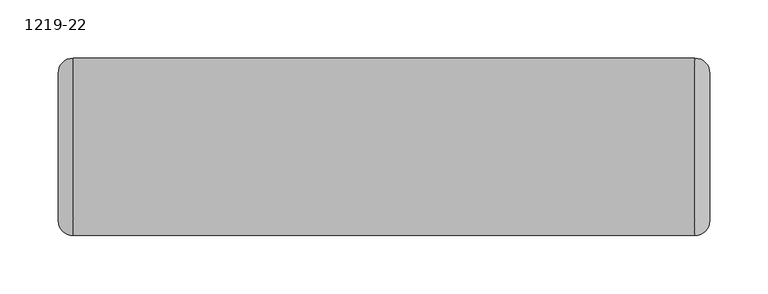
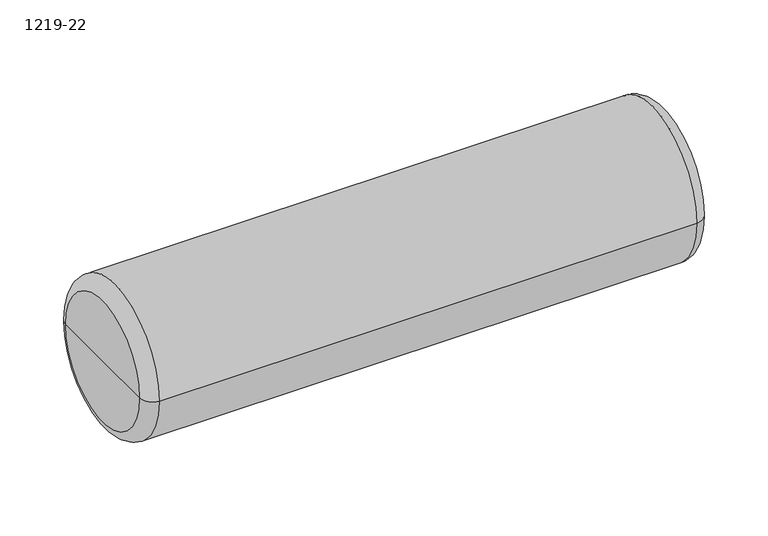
"""IFC4 building model written with IfcOpenShell, lengths in millimetres: furniture geometry, Laguna-Bolster-Pillow-ERG : 1219-22."""

import ifcopenshell
import ifcopenshell.guid

model = None  # the IFC model being written
_history = None  # IfcOwnerHistory: only IFC2X3 demands one
_inside = {}  # id of a spatial element -> (the spatial element, [elements in it])
_under = {}  # id of a project, library or spatial element -> (it, [spatial elements below it])
_declared = {}  # id of a project -> (the project, [libraries it declares])
_typed = {}  # id of a type object -> (the type object, [elements of that type])
_made_of = {}  # id of a material, layer set ... -> (it, [elements and type objects made of it])


def new_model(schema):
    """Start an empty IFC model of exactly this schema.

    Asked for "IFC4X3", IfcOpenShell would pick the latest addendum, in which some entities
    have other attributes; the version numbers below select the first issue.
    IFC2X3 requires an IfcOwnerHistory on every rooted entity: one is made here for all.
    """
    global model, _history
    if schema == "IFC4X3":
        model = ifcopenshell.file(schema_version=(4, 3, 0, 0))
    else:
        model = ifcopenshell.file(schema=schema)
    _inside.clear()
    _under.clear()
    _declared.clear()
    _typed.clear()
    _made_of.clear()
    _history = None
    if model.schema == "IFC2X3":
        org = make("IfcOrganization", Name="unknown")
        user = make(
            "IfcPersonAndOrganization",
            ThePerson=make("IfcPerson", FamilyName="unknown"),
            TheOrganization=org,
        )
        app = make(
            "IfcApplication",
            ApplicationDeveloper=org,
            Version="unknown",
            ApplicationFullName="unknown",
            ApplicationIdentifier="unknown",
        )
        _history = make(
            "IfcOwnerHistory",
            OwningUser=user,
            OwningApplication=app,
            ChangeAction="ADDED",
            CreationDate=0,
        )
    return model


def make(cls, **values):
    """One entity of the class cls with the attributes given. An attribute that is None is left unset."""
    return model.create_entity(
        cls, **{name: value for name, value in values.items() if value is not None}
    )


def rooted(cls, **values):
    """An entity with a GlobalId (a new one), such as an element, a storey or a relation."""
    return make(cls, GlobalId=ifcopenshell.guid.new(), OwnerHistory=_history, **values)


def si_unit(unit_type, name, prefix=None):
    """IfcSIUnit, for example si_unit("LENGTHUNIT", "METRE", prefix="MILLI")."""
    return make("IfcSIUnit", UnitType=unit_type, Prefix=prefix, Name=name)


def assignment(units):
    """IfcUnitAssignment: the units of a project."""
    return None if units is None else make("IfcUnitAssignment", Units=units)


def point(xyz):
    """IfcCartesianPoint."""
    return None if xyz is None else make("IfcCartesianPoint", Coordinates=xyz)


def direction(xyz):
    """IfcDirection."""
    return None if xyz is None else make("IfcDirection", DirectionRatios=xyz)


def frame(location, z_axis=None, x_axis=None):
    """IfcAxis2Placement3D, a coordinate frame: its origin and axes. An axis left out is left unset."""
    return make(
        "IfcAxis2Placement3D",
        Location=point(location),
        Axis=direction(z_axis),
        RefDirection=direction(x_axis),
    )


def origin():
    """The frame at (0, 0, 0) with its axes left unset."""
    return frame((0.0, 0.0, 0.0))


def place(relative_to, where):
    """IfcLocalPlacement: puts the frame where relative to a parent placement (None: the world)."""
    return make(
        "IfcLocalPlacement", PlacementRelTo=relative_to, RelativePlacement=where
    )


def context(
    kind, dimensions, precision=None, world=None, true_north=None, identifier=None
):
    """IfcGeometricRepresentationContext, for example the 3D "Model" context."""
    return make(
        "IfcGeometricRepresentationContext",
        ContextIdentifier=identifier,
        ContextType=kind,
        CoordinateSpaceDimension=dimensions,
        Precision=precision,
        WorldCoordinateSystem=world,
        TrueNorth=true_north,
    )


def project(units=None, contexts=None):
    """IfcProject with its units and contexts."""
    return rooted(
        "IfcProject",
        Name="project",
        RepresentationContexts=contexts,
        UnitsInContext=assignment(units),
    )


def spatial(cls, under=None, at=None, **own):
    """A site, building, storey or space (cls), placed at a placement, below another one or the project."""
    s = rooted(cls, ObjectPlacement=at, **own)
    if under is not None:
        _under.setdefault(under.id(), (under, []))[1].append(s)
    return s


def circle_curve(where, radius):
    """IfcCircle in the frame where."""
    return make("IfcCircle", Position=where, Radius=radius)


def ellipse_curve(where, semi_axis1, semi_axis2):
    """IfcEllipse in the frame where."""
    return make(
        "IfcEllipse", Position=where, SemiAxis1=semi_axis1, SemiAxis2=semi_axis2
    )


def trimmed(basis, trim1, trim2, sense, master):
    """IfcTrimmedCurve: the piece of a basis curve between two trims."""
    return make(
        "IfcTrimmedCurve",
        BasisCurve=basis,
        Trim1=trim1,
        Trim2=trim2,
        SenseAgreement=sense,
        MasterRepresentation=master,
    )


def shape(context_of_items, identifier, shape_type, items):
    """IfcShapeRepresentation: the items that make up one representation, for example the "Body"."""
    return make(
        "IfcShapeRepresentation",
        ContextOfItems=context_of_items,
        RepresentationIdentifier=identifier,
        RepresentationType=shape_type,
        Items=items,
    )


def source(mapping_origin, context_of_items, identifier, shape_type, items):
    """IfcRepresentationMap: a shape defined once, which mapped items show again and again."""
    return make(
        "IfcRepresentationMap",
        MappingOrigin=mapping_origin,
        MappedRepresentation=shape(context_of_items, identifier, shape_type, items),
    )


def transform(
    local_origin,
    x_axis=None,
    y_axis=None,
    z_axis=None,
    scale=None,
    scale2=None,
    scale3=None,
    uniform=True,
):
    """IfcCartesianTransformationOperator3D, or its non-uniform kind. x_axis, y_axis, z_axis: its Axis1, 2, 3."""
    if uniform:
        return make(
            "IfcCartesianTransformationOperator3D",
            Axis1=direction(x_axis),
            Axis2=direction(y_axis),
            LocalOrigin=point(local_origin),
            Scale=scale,
            Axis3=direction(z_axis),
        )
    return make(
        "IfcCartesianTransformationOperator3DnonUniform",
        Axis1=direction(x_axis),
        Axis2=direction(y_axis),
        LocalOrigin=point(local_origin),
        Scale=scale,
        Axis3=direction(z_axis),
        Scale2=scale2,
        Scale3=scale3,
    )


def mapped(mapping_source, mapping_target):
    """IfcMappedItem: shows the shape of a source again, moved by a transform."""
    return make(
        "IfcMappedItem", MappingSource=mapping_source, MappingTarget=mapping_target
    )


def made_of(thing, what):
    """Note that an element or type object is made of a material, layer set ...; save() writes the relation."""
    if what is not None:
        _made_of.setdefault(what.id(), (what, []))[1].append(thing)
    return thing


def element(
    cls,
    number,
    at=None,
    inside=None,
    cuts=None,
    type_object=None,
    material=None,
    context=None,
    identifier="Body",
    shape_type=None,
    held_by="IfcProductDefinitionShape",
    body=None,
    shapes=None,
    **own,
):
    """One element of the class cls, such as IfcWall. Its Tag is "e" and its number.

    at: its placement. inside: the storey or other place that contains it. cuts: it is an
    opening in that element (IfcRelVoidsElement). A single representation is given by context,
    identifier, shape_type and body (its items); several are given by shapes. held_by: the class
    of the entity that holds the representations. save() writes the other relations.
    """
    e = rooted(cls, Tag="e%d" % number, ObjectPlacement=at, **own)
    if body is not None:
        shapes = [shape(context, identifier, shape_type, body)]
    if shapes is not None:
        e.Representation = make(held_by, Representations=shapes)
    if inside is not None:
        _inside.setdefault(inside.id(), (inside, []))[1].append(e)
    if cuts is not None:
        rooted(
            "IfcRelVoidsElement", RelatingBuildingElement=cuts, RelatedOpeningElement=e
        )
    if type_object is not None:
        _typed.setdefault(type_object.id(), (type_object, []))[1].append(e)
    return made_of(e, material)


def aggregate(whole, parts):
    """IfcRelAggregates: a whole, such as a stair, and the parts it consists of."""
    return rooted("IfcRelAggregates", RelatingObject=whole, RelatedObjects=parts)


def save(model, path):
    """Write the relations noted so far, then the file.

    IfcRelAggregates (storeys below a building ...), IfcRelContainedInSpatialStructure (elements
    in a storey), IfcRelDefinesByType, IfcRelAssociatesMaterial and IfcRelDeclares: one each for
    every whole, place, type object, material and project.
    """
    for whole, parts in _under.values():
        aggregate(whole, parts)
    for where, things in _inside.values():
        rooted(
            "IfcRelContainedInSpatialStructure",
            RelatedElements=things,
            RelatingStructure=where,
        )
    for kind, things in _typed.values():
        rooted("IfcRelDefinesByType", RelatedObjects=things, RelatingType=kind)
    for what, things in _made_of.values():
        rooted("IfcRelAssociatesMaterial", RelatedObjects=things, RelatingMaterial=what)
    for by, libraries in _declared.values():
        rooted("IfcRelDeclares", RelatingContext=by, RelatedDefinitions=libraries)
    model.write(path)


def plane_surface(at):
    """IfcPlane: the flat surface through the origin of the frame at, square to its z axis."""
    return make("IfcPlane", Position=at)


def cylinder_surface(at, radius):
    """IfcCylindricalSurface: all points at the distance radius from the z axis of the frame at."""
    return make("IfcCylindricalSurface", Position=at, Radius=radius)


def revolved_surface(curve, axis_point, axis_direction):
    """IfcSurfaceOfRevolution: the curve turned about the line through axis_point along axis_direction."""
    return make(
        "IfcSurfaceOfRevolution",
        SweptCurve=make("IfcArbitraryOpenProfileDef", ProfileType="CURVE", Curve=curve),
        AxisPosition=make("IfcAxis1Placement", Location=point(axis_point), Axis=direction(axis_direction)),
    )


def advanced_brep(points, edges, surfaces, faces):
    """IfcAdvancedBrep: a solid bounded by faces that lie on surfaces and meet in shared edges.

    An edge is (start, end): straight between two places in points (the first is 0);
    or (start, end, curve); or (start, end, curve, False) where it runs against its curve.
    A face is (place in surfaces, loops), or (place, loops, False) where it looks against
    its surface's normal. A loop lists edges by number (the first is 1), with a minus sign
    where the edge is run from its end to its start. The first loop is the outer one.
    """
    corners = [point(p) for p in points]
    vertices = [make("IfcVertexPoint", VertexGeometry=c) for c in corners]
    made = []
    for start, end, *more in edges:
        made.append(
            make(
                "IfcEdgeCurve",
                EdgeStart=vertices[start],
                EdgeEnd=vertices[end],
                EdgeGeometry=more[0] if more else make("IfcPolyline", Points=[corners[start], corners[end]]),
                SameSense=more[1] if len(more) > 1 else True,
            )
        )
    hull = []
    for where, loops, *sense in faces:
        bounds = []
        for j, loop in enumerate(loops):
            ring = [make("IfcOrientedEdge", EdgeElement=made[abs(k) - 1], Orientation=k > 0) for k in loop]
            bounds.append(
                make(
                    "IfcFaceOuterBound" if j == 0 else "IfcFaceBound",
                    Bound=make("IfcEdgeLoop", EdgeList=ring),
                    Orientation=True,
                )
            )
        hull.append(make("IfcAdvancedFace", Bounds=bounds, FaceSurface=surfaces[where], SameSense=sense[0] if sense else True))
    return make("IfcAdvancedBrep", Outer=make("IfcClosedShell", CfsFaces=hull))


def furniture_1219_22_a1547cf1(model_context):
    return source(origin(), model_context, "Body", "AdvancedBrep", [
        advanced_brep(
        [(-4662.7421763, 1005.5558502, 508.0), (-4662.7421763, 1069.0558502, 508.0), (-4662.7421763, 942.0558502, 508.0), (-4103.9421763, 942.0558502, 508.0), (-4103.9421763, 1069.0558502, 508.0), (-4103.9421763, 1005.5558502, 508.0), (-4116.6421763, 929.3558502, 508.0), (-4116.6421763, 1081.7558502, 508.0), (-4650.0421763, 929.3558502, 508.0), (-4650.0421763, 1081.7558502, 508.0)],
        [
            (0, 1),
            (1, 2, circle_curve(frame((-4662.7421763, 1005.5558502, 508.0), z_axis=(-1.0, 0.0, 0.0), x_axis=(0.0, 1.0, 0.0)), 63.5)),
            (2, 0),
            (2, 1, circle_curve(frame((-4662.7421763, 1005.5558502, 508.0), z_axis=(-1.0, 0.0, 0.0), x_axis=(0.0, 1.0, 0.0)), 63.5)),
            (3, 4, circle_curve(frame((-4103.9421763, 1005.5558502, 508.0), z_axis=(1.0, 0.0, 0.0), x_axis=(0.0, 1.0, 0.0)), 63.5)),
            (4, 5),
            (5, 3),
            (4, 3, circle_curve(frame((-4103.9421763, 1005.5558502, 508.0), z_axis=(1.0, 0.0, 0.0), x_axis=(0.0, 1.0, 0.0)), 63.5)),
            (6, 7, circle_curve(frame((-4116.6421763, 1005.5558502, 508.0), z_axis=(1.0, 0.0, 0.0), x_axis=(0.0, 1.0, 0.0)), 76.2)),
            (7, 4, circle_curve(frame((-4116.6421763, 1069.0558502, 508.0), z_axis=(0.0, 0.0, -1.0), x_axis=(0.0, 1.0, 0.0)), 12.7)),
            (3, 6, circle_curve(frame((-4116.6421763, 942.0558502, 508.0), z_axis=(0.0, 0.0, -1.0), x_axis=(0.0, -1.0, 0.0)), 12.7)),
            (7, 6, circle_curve(frame((-4116.6421763, 1005.5558502, 508.0), z_axis=(1.0, 0.0, 0.0), x_axis=(0.0, 1.0, 0.0)), 76.2)),
            (8, 9, circle_curve(frame((-4650.0421763, 1005.5558502, 508.0), z_axis=(1.0, 0.0, 0.0), x_axis=(0.0, 1.0, 0.0)), 76.2)),
            (9, 7),
            (6, 8),
            (9, 8, circle_curve(frame((-4650.0421763, 1005.5558502, 508.0), z_axis=(1.0, 0.0, 0.0), x_axis=(0.0, 1.0, 0.0)), 76.2)),
            (1, 9, circle_curve(frame((-4650.0421763, 1069.0558502, 508.0), z_axis=(0.0, 0.0, -1.0), x_axis=(0.0, 1.0, 0.0)), 12.7)),
            (8, 2, circle_curve(frame((-4650.0421763, 942.0558502, 508.0), z_axis=(0.0, 0.0, -1.0), x_axis=(0.0, -1.0, 0.0)), 12.7)),
        ],
        [
            plane_surface(frame((-4662.7421763, 1005.5558502, 508.0), z_axis=(-1.0, 0.0, 0.0), x_axis=(0.0, 1.0, 0.0))),
            plane_surface(frame((-4103.9421763, 1005.5558502, 508.0), z_axis=(1.0, 0.0, 0.0), x_axis=(0.0, 1.0, 0.0))),
            revolved_surface(trimmed(ellipse_curve(frame((-4116.6421763, 1069.0558502, 508.0), z_axis=(0.0, 0.0, 1.0), x_axis=(0.0, 1.0, 0.0)), 12.7, 12.7), [point((-4103.9421763, 1069.0558502, 508.0))], [point((-4116.6421763, 1081.7558502, 508.0))], True, "CARTESIAN"), (-4662.7421763, 1005.5558502, 508.0), (-1.0, 0.0, 0.0)),
            cylinder_surface(frame((-4662.7421763, 1005.5558502, 508.0), z_axis=(-1.0, 0.0, 0.0), x_axis=(0.0, 1.0, 0.0)), 76.2),
            revolved_surface(trimmed(ellipse_curve(frame((-4650.0421763, 1069.0558502, 508.0), z_axis=(0.0, 0.0, 1.0), x_axis=(0.0, 1.0, 0.0)), 12.7, 12.7), [point((-4650.0421763, 1081.7558502, 508.0))], [point((-4662.7421763, 1069.0558502, 508.0))], True, "CARTESIAN"), (-4662.7421763, 1005.5558502, 508.0), (-1.0, 0.0, 0.0)),
        ],
        [
            (0, [[1, 2, 3]]),
            (0, [[-3, 4, -1]]),
            (1, [[5, 6, 7]]),
            (1, [[8, -7, -6]]),
            (2, [[9, 10, -5, 11]]),
            (2, [[12, -11, -8, -10]]),
            (3, [[13, 14, -9, 15]]),
            (3, [[16, -15, -12, -14]]),
            (4, [[-2, 17, -13, 18]]),
            (4, [[-4, -18, -16, -17]]),
        ],
    ),
    ])


if __name__ == "__main__":
    model = new_model("IFC4")
    model_context = context("Model", 3, world=origin())
    ifc_project = project(units=[si_unit("LENGTHUNIT", "METRE", prefix="MILLI")], contexts=[model_context])
    site = spatial("IfcSite", under=ifc_project)
    building = spatial("IfcBuilding", under=site)
    placement = place(None, origin())
    furniture_1219_22_shape = furniture_1219_22_a1547cf1(model_context)
    element("IfcFurniture", 1, ObjectType="Laguna-Bolster-Pillow-ERG : 1219-22", at=placement, inside=building, context=model_context, shape_type="MappedRepresentation", body=[
        mapped(furniture_1219_22_shape, transform((0.0, 0.0, 0.0), x_axis=(1.0, 0.0, 0.0), y_axis=(0.0, 1.0, 0.0), z_axis=(0.0, 0.0, 1.0))),
    ])
    save(model, "model.ifc")
